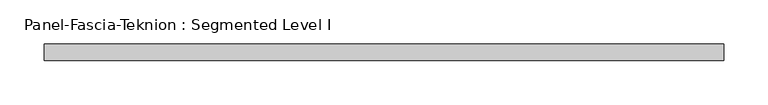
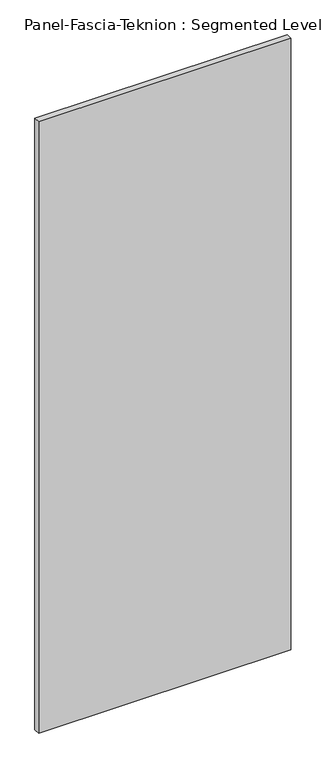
"""IFC4 building model written with IfcOpenShell, lengths in millimetres: proxy geometry, Panel-Fascia-Teknion : Segmented Level I."""

from ifc_helpers import new_model, si_unit, frame, origin, place, context, project, spatial, polyline, outline, extrude, source, transform, mapped, element, save


def panel_fascia_teknion_segmented_level_i_2509cfa8(model_context):
    return source(origin(), model_context, "Body", "SweptSolid", [
        extrude(outline(polyline([(385.4152344, -9.525), (-385.4152344, -9.525), (-385.4152344, 9.525), (385.4152344, 9.525), (385.4152344, -9.525)])), frame((0.0, 0.0, 3.175), z_axis=(0.0, 0.0, 1.0), x_axis=(1.0, 0.0, 0.0)), (0.0, 0.0, 1.0), 1974.85),
    ])


if __name__ == "__main__":
    model = new_model("IFC4")
    model_context = context("Model", 3, world=origin())
    ifc_project = project(units=[si_unit("LENGTHUNIT", "METRE", prefix="MILLI")], contexts=[model_context])
    site = spatial("IfcSite", under=ifc_project)
    building = spatial("IfcBuilding", under=site)
    placement = place(None, origin())
    panel_fascia_teknion_segmented_level_i_shape = panel_fascia_teknion_segmented_level_i_2509cfa8(model_context)
    element("IfcBuildingElementProxy", 1, Name="Panel-Fascia-Teknion : Segmented Level I", ObjectType="Panel-Fascia-Teknion : Segmented Level I", at=placement, inside=building, context=model_context, shape_type="MappedRepresentation", body=[
        mapped(panel_fascia_teknion_segmented_level_i_shape, transform((0.0, 0.0, 0.0), x_axis=(1.0, 0.0, 0.0), y_axis=(0.0, 1.0, 0.0), z_axis=(0.0, 0.0, 1.0))),
    ])
    save(model, "model.ifc")
